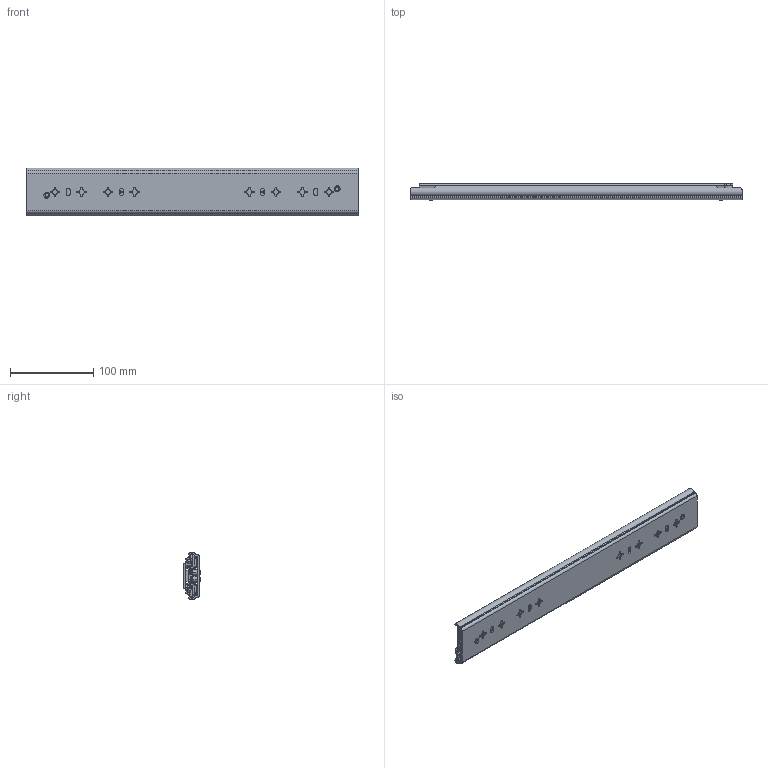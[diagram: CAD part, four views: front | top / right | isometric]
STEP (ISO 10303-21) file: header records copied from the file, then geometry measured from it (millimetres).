
FILE_DESCRIPTION((''),'2;1');
FILE_NAME('1057-C-16_ASM','2025-10-22T',('蔽翩'),(''),'CREO PARAMETRIC BY PTC INC, 2018220','CREO PARAMETRIC BY PTC INC, 2018220','');
FILE_SCHEMA(('CONFIG_CONTROL_DESIGN'));
Length unit declared in the file: millimetre
Products named in the file (20): KP-57-01WEIKE-31__; MAODING-WAI__; 1057DAZHUJIA-20GE1__; 1057ZHUJIADANWEIJIAO12________; 1057-5-6GANZHU1__; 1057DAZHUJIA-20GE_11______ASM; 1057-C-20-KE___ASM; KP-57-01ZHONGGUI-28_______; PEIJIAN-22__; ZHUANJIAO112__; LIUJIAO-DING11__; 1057-XIAOJIAOLUN22; PEIJIAN-ZHONG___ASM; 1057XIAOZHUJIA___20___; 1057XIAOZHUJIA-20GE____ASM; KP-57-01ZHONGGUI-28________ASM; KP-57-01NEIGUI-241__; XIN-JIAOGUAN22; KP-57-01NEIGUI-241___ASM; 1057-C-16_ASM
Assembly tree (66 placements, depth 4):
  1057-C-16_ASM
    1057-C-20-KE___ASM
      KP-57-01WEIKE-31__
      MAODING-WAI__  x2
      1057DAZHUJIA-20GE_11______ASM
        1057DAZHUJIA-20GE1__
        1057ZHUJIADANWEIJIAO12________  x2
        1057-5-6GANZHU1__  x20
    KP-57-01ZHONGGUI-28________ASM
      KP-57-01ZHONGGUI-28_______
      PEIJIAN-ZHONG___ASM  x2
        PEIJIAN-22__
        ZHUANJIAO112__
        LIUJIAO-DING11__
        1057-XIAOJIAOLUN22
      MAODING-WAI__  x2
      1057XIAOZHUJIA-20GE____ASM
        1057XIAOZHUJIA___20___
        1057-5-6GANZHU1__  x20
        1057ZHUJIADANWEIJIAO12________  x2
    KP-57-01NEIGUI-241___ASM
      KP-57-01NEIGUI-241__
      XIN-JIAOGUAN22  x2
Bounding box: 400 x 19.8 x 57.67 mm (x, y, z)
Volume: 164484.1 mm3; surface area: 188164.8 mm2
Topology: 63 solids, 63 shells, 2070 faces, 5688 edges, 3578 vertices
Faces by surface type: plane 924, cylinder 804, torus 96, sphere 86, cone 78, bspline 74, extrusion 8
Entity records: 55118 total; most frequent: CARTESIAN_POINT 12320, DIRECTION 9036, ORIENTED_EDGE 8882, EDGE_CURVE 4441, AXIS2_PLACEMENT_3D 3156, VERTEX_POINT 2867, VECTOR 2724, LINE 2720
